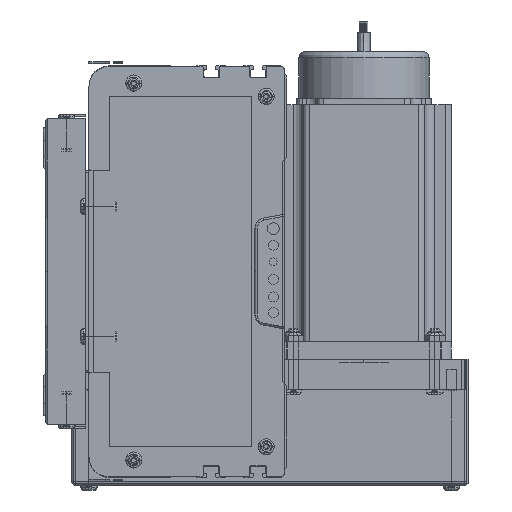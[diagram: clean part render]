
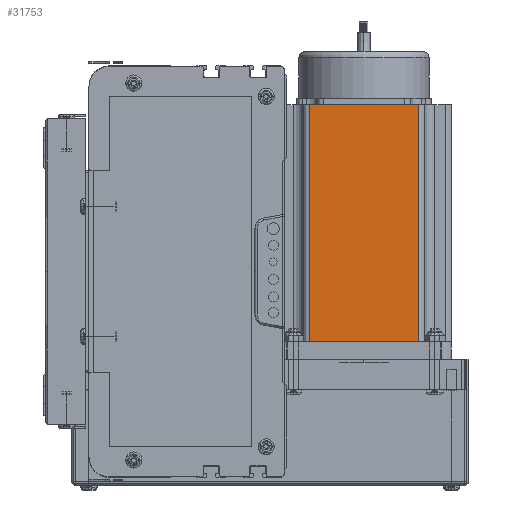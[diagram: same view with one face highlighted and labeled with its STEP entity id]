
A CAD part, left-side view. The second image highlights one B-rep face of the part: STEP entity #31753.
In plain terms, the highlighted planar face has unit normal (-1, 0, 0) as drawn and (0, -1, 0) by its records, which use the part's own axes.
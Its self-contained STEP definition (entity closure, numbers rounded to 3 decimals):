
#31656 = EDGE_CURVE ( 'NONE', #31762, #31764, #163476, .T. ) ;
#31664 = ORIENTED_EDGE ( 'NONE', *, *, #31656, .F. ) ;
#31671 = EDGE_CURVE ( 'NONE', #31756, #31764, #45884, .T. ) ;
#31674 = ORIENTED_EDGE ( 'NONE', *, *, #31769, .T. ) ;
#31675 = ORIENTED_EDGE ( 'NONE', *, *, #31728, .T. ) ;
#31718 = VERTEX_POINT ( 'NONE', #138835 ) ;
#31728 = EDGE_CURVE ( 'NONE', #31762, #31718, #136821, .T. ) ;
#31753 = ADVANCED_FACE ( 'NONE', ( #148192 ), #148177, .F. ) ;
#31755 = ORIENTED_EDGE ( 'NONE', *, *, #31671, .T. ) ;
#31756 = VERTEX_POINT ( 'NONE', #149000 ) ;
#31762 = VERTEX_POINT ( 'NONE', #148982 ) ;
#31764 = VERTEX_POINT ( 'NONE', #148808 ) ;
#31769 = EDGE_CURVE ( 'NONE', #31718, #31756, #149105, .T. ) ;
#31798 = EDGE_LOOP ( 'NONE', ( #31674, #31755, #31664, #31675 ) ) ;
#45879 = DIRECTION ( 'NONE',  ( 0., 0., 1. ) ) ;
#45881 = VECTOR ( 'NONE', #45879, 1000. ) ;
#45883 = CARTESIAN_POINT ( 'NONE',  ( 69.74, 0., 116.5 ) ) ;
#45884 = LINE ( 'NONE', #45883, #45881 ) ;
#136768 = VECTOR ( 'NONE', #136819, 1000. ) ;
#136787 = CARTESIAN_POINT ( 'NONE',  ( 16.16, 0., 116.5 ) ) ;
#136819 = DIRECTION ( 'NONE',  ( 0., 0., -1. ) ) ;
#136821 = LINE ( 'NONE', #136787, #136768 ) ;
#138835 = CARTESIAN_POINT ( 'NONE',  ( 16.16, 0., 0. ) ) ;
#148145 = DIRECTION ( 'NONE',  ( 0., 0., 1. ) ) ;
#148158 = DIRECTION ( 'NONE',  ( 0., 1., 0. ) ) ;
#148159 = CARTESIAN_POINT ( 'NONE',  ( 0., 0., 116.5 ) ) ;
#148161 = AXIS2_PLACEMENT_3D ( 'NONE', #148159, #148158, #148145 ) ;
#148177 = PLANE ( 'NONE',  #148161 ) ;
#148192 = FACE_OUTER_BOUND ( 'NONE', #31798, .T. ) ;
#148808 = CARTESIAN_POINT ( 'NONE',  ( 69.74, 0., 116.5 ) ) ;
#148935 = DIRECTION ( 'NONE',  ( 1., 0., 0. ) ) ;
#148937 = VECTOR ( 'NONE', #148935, 1000. ) ;
#148982 = CARTESIAN_POINT ( 'NONE',  ( 16.16, 0., 116.5 ) ) ;
#149000 = CARTESIAN_POINT ( 'NONE',  ( 69.74, 0., 0. ) ) ;
#149104 = CARTESIAN_POINT ( 'NONE',  ( 0., 0., 0. ) ) ;
#149105 = LINE ( 'NONE', #149104, #148937 ) ;
#163471 = VECTOR ( 'NONE', #163584, 1000. ) ;
#163472 = CARTESIAN_POINT ( 'NONE',  ( 0., 0., 116.5 ) ) ;
#163476 = LINE ( 'NONE', #163472, #163471 ) ;
#163584 = DIRECTION ( 'NONE',  ( 1., 0., 0. ) ) ;
